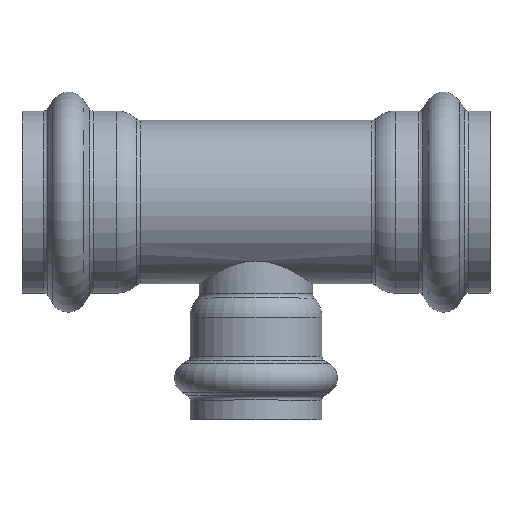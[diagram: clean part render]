
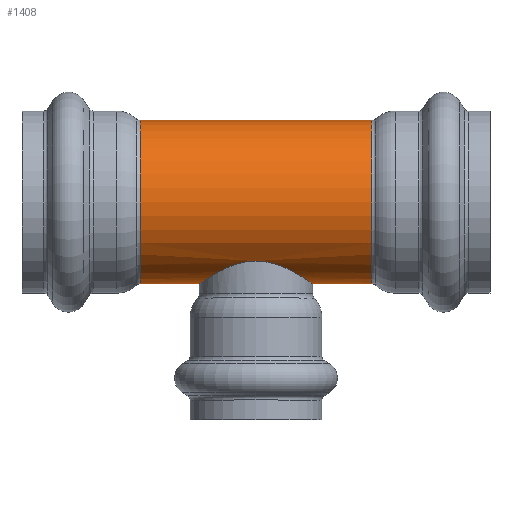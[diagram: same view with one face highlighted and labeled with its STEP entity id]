
A CAD part, top view. The second image highlights one B-rep face of the part: STEP entity #1408.
In plain terms, the highlighted cylindrical face has radius 24.13 mm (diameter 48.26 mm), a full revolution.
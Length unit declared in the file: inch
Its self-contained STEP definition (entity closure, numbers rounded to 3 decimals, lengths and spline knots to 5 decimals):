
#134=FACE_OUTER_BOUND('',#197,.T.);
#197=EDGE_LOOP('',(#1132,#1133,#1134,#1135,#1136,#1137,#1138,#1139,#1140,
#1141,#1142,#1143,#1144,#1145));
#334=CIRCLE('',#1605,0.95);
#335=CIRCLE('',#1606,0.95);
#336=CIRCLE('',#1607,0.95);
#337=CIRCLE('',#1609,0.95);
#338=CIRCLE('',#1610,0.95);
#339=CIRCLE('',#1611,0.95);
#420=LINE('',#2662,#450);
#421=LINE('',#2663,#451);
#450=VECTOR('',#2052,0.95);
#451=VECTOR('',#2053,0.95);
#460=B_SPLINE_CURVE_WITH_KNOTS('',3,(#2252,#2253,#2254,#2255,#2256,#2257,
#2258,#2259,#2260,#2261,#2262,#2263,#2264,#2265,#2266,#2267),
 .UNSPECIFIED.,.F.,.F.,(4,2,2,2,2,2,2,4),(0.,0.33127,0.66254,
1.32507,1.6519,1.97872,2.30554,2.63236),
 .UNSPECIFIED.);
#461=B_SPLINE_CURVE_WITH_KNOTS('',3,(#2269,#2270,#2271,#2272,#2273,#2274,
#2275,#2276,#2277,#2278,#2279,#2280,#2281,#2282,#2283,#2284),
 .UNSPECIFIED.,.F.,.F.,(4,2,2,2,2,2,2,4),(7.89709,8.22391,
8.55074,8.87756,9.20438,9.86692,10.19819,
10.52946),.UNSPECIFIED.);
#462=B_SPLINE_CURVE_WITH_KNOTS('',3,(#2286,#2287,#2288,#2289,#2290,#2291,
#2292,#2293,#2294,#2295,#2296,#2297,#2298,#2299,#2300,#2301),
 .UNSPECIFIED.,.F.,.F.,(4,2,2,2,2,2,2,4),(5.26473,5.596,
5.92727,6.5898,6.91662,7.24345,7.57027,
7.89709),.UNSPECIFIED.);
#463=B_SPLINE_CURVE_WITH_KNOTS('',3,(#2307,#2308,#2309,#2310,#2311,#2312,
#2313,#2314,#2315,#2316,#2317,#2318,#2319,#2320,#2321,#2322),
 .UNSPECIFIED.,.F.,.F.,(4,2,2,2,2,2,2,4),(2.63236,2.95919,
3.28601,3.61283,3.93965,4.60219,4.93346,
5.26473),.UNSPECIFIED.);
#468=VERTEX_POINT('',#2250);
#469=VERTEX_POINT('',#2251);
#470=VERTEX_POINT('',#2268);
#471=VERTEX_POINT('',#2285);
#572=VERTEX_POINT('',#2649);
#573=VERTEX_POINT('',#2651);
#574=VERTEX_POINT('',#2653);
#575=VERTEX_POINT('',#2657);
#576=VERTEX_POINT('',#2658);
#577=VERTEX_POINT('',#2660);
#628=EDGE_CURVE('',#468,#469,#460,.T.);
#629=EDGE_CURVE('',#470,#468,#461,.T.);
#630=EDGE_CURVE('',#471,#470,#462,.T.);
#634=EDGE_CURVE('',#469,#471,#463,.T.);
#772=EDGE_CURVE('',#573,#572,#334,.T.);
#773=EDGE_CURVE('',#574,#573,#335,.T.);
#774=EDGE_CURVE('',#572,#574,#336,.T.);
#775=EDGE_CURVE('',#575,#576,#337,.T.);
#776=EDGE_CURVE('',#577,#575,#338,.T.);
#777=EDGE_CURVE('',#577,#469,#420,.T.);
#778=EDGE_CURVE('',#470,#574,#421,.T.);
#779=EDGE_CURVE('',#576,#577,#339,.T.);
#1132=ORIENTED_EDGE('',*,*,#775,.F.);
#1133=ORIENTED_EDGE('',*,*,#776,.F.);
#1134=ORIENTED_EDGE('',*,*,#777,.T.);
#1135=ORIENTED_EDGE('',*,*,#634,.T.);
#1136=ORIENTED_EDGE('',*,*,#630,.T.);
#1137=ORIENTED_EDGE('',*,*,#778,.T.);
#1138=ORIENTED_EDGE('',*,*,#773,.T.);
#1139=ORIENTED_EDGE('',*,*,#772,.T.);
#1140=ORIENTED_EDGE('',*,*,#774,.T.);
#1141=ORIENTED_EDGE('',*,*,#778,.F.);
#1142=ORIENTED_EDGE('',*,*,#629,.T.);
#1143=ORIENTED_EDGE('',*,*,#628,.T.);
#1144=ORIENTED_EDGE('',*,*,#777,.F.);
#1145=ORIENTED_EDGE('',*,*,#779,.F.);
#1299=CYLINDRICAL_SURFACE('',#1608,0.95);
#1408=ADVANCED_FACE('',(#134),#1299,.T.);
#1605=AXIS2_PLACEMENT_3D('',#2652,#2040,#2041);
#1606=AXIS2_PLACEMENT_3D('',#2654,#2042,#2043);
#1607=AXIS2_PLACEMENT_3D('',#2655,#2044,#2045);
#1608=AXIS2_PLACEMENT_3D('',#2656,#2046,#2047);
#1609=AXIS2_PLACEMENT_3D('',#2659,#2048,#2049);
#1610=AXIS2_PLACEMENT_3D('',#2661,#2050,#2051);
#1611=AXIS2_PLACEMENT_3D('',#2664,#2054,#2055);
#2040=DIRECTION('center_axis',(1.,0.,0.));
#2041=DIRECTION('ref_axis',(0.,1.,0.));
#2042=DIRECTION('center_axis',(1.,0.,0.));
#2043=DIRECTION('ref_axis',(0.,1.,0.));
#2044=DIRECTION('center_axis',(1.,0.,0.));
#2045=DIRECTION('ref_axis',(0.,1.,0.));
#2046=DIRECTION('center_axis',(1.,0.,0.));
#2047=DIRECTION('ref_axis',(0.,1.,0.));
#2048=DIRECTION('center_axis',(1.,0.,0.));
#2049=DIRECTION('ref_axis',(0.,1.,0.));
#2050=DIRECTION('center_axis',(1.,0.,0.));
#2051=DIRECTION('ref_axis',(0.,1.,0.));
#2052=DIRECTION('',(-1.,0.,0.));
#2053=DIRECTION('',(-1.,0.,0.));
#2054=DIRECTION('center_axis',(1.,0.,0.));
#2055=DIRECTION('ref_axis',(0.,1.,0.));
#2250=CARTESIAN_POINT('',(0.,-0.68571,0.6575));
#2251=CARTESIAN_POINT('',(0.6575,-0.95,0.));
#2252=CARTESIAN_POINT('Ctrl Pts',(0.,-0.68571,
0.6575));
#2253=CARTESIAN_POINT('Ctrl Pts',(0.04347,-0.68571,
0.6575));
#2254=CARTESIAN_POINT('Ctrl Pts',(0.0875,-0.68997,
0.65313));
#2255=CARTESIAN_POINT('Ctrl Pts',(0.17367,-0.70609,0.63567));
#2256=CARTESIAN_POINT('Ctrl Pts',(0.21583,-0.71789,
0.62259));
#2257=CARTESIAN_POINT('Ctrl Pts',(0.33598,-0.7599,0.57183));
#2258=CARTESIAN_POINT('Ctrl Pts',(0.40778,-0.79639,
0.52207));
#2259=CARTESIAN_POINT('Ctrl Pts',(0.49311,-0.84428,
0.43673));
#2260=CARTESIAN_POINT('Ctrl Pts',(0.51989,-0.8603,
0.40476));
#2261=CARTESIAN_POINT('Ctrl Pts',(0.56763,-0.88997,0.33453));
#2262=CARTESIAN_POINT('Ctrl Pts',(0.5886,-0.90359,
0.29627));
#2263=CARTESIAN_POINT('Ctrl Pts',(0.62268,-0.92615,
0.21562));
#2264=CARTESIAN_POINT('Ctrl Pts',(0.63582,-0.93511,
0.17314));
#2265=CARTESIAN_POINT('Ctrl Pts',(0.65324,-0.94703,0.08677));
#2266=CARTESIAN_POINT('Ctrl Pts',(0.6575,-0.95,0.04289));
#2267=CARTESIAN_POINT('Ctrl Pts',(0.6575,-0.95,0.));
#2268=CARTESIAN_POINT('',(-0.6575,-0.95,0.));
#2269=CARTESIAN_POINT('Ctrl Pts',(-0.6575,-0.95,0.));
#2270=CARTESIAN_POINT('Ctrl Pts',(-0.6575,-0.95,0.04289));
#2271=CARTESIAN_POINT('Ctrl Pts',(-0.65324,-0.94703,
0.08677));
#2272=CARTESIAN_POINT('Ctrl Pts',(-0.63582,-0.93511,
0.17314));
#2273=CARTESIAN_POINT('Ctrl Pts',(-0.62268,-0.92615,
0.21562));
#2274=CARTESIAN_POINT('Ctrl Pts',(-0.5886,-0.90359,
0.29627));
#2275=CARTESIAN_POINT('Ctrl Pts',(-0.56763,-0.88997,
0.33453));
#2276=CARTESIAN_POINT('Ctrl Pts',(-0.51989,-0.8603,
0.40476));
#2277=CARTESIAN_POINT('Ctrl Pts',(-0.49311,-0.84428,
0.43673));
#2278=CARTESIAN_POINT('Ctrl Pts',(-0.40778,-0.79639,
0.52207));
#2279=CARTESIAN_POINT('Ctrl Pts',(-0.33598,-0.7599,
0.57183));
#2280=CARTESIAN_POINT('Ctrl Pts',(-0.21583,-0.71789,
0.62259));
#2281=CARTESIAN_POINT('Ctrl Pts',(-0.17367,-0.70609,
0.63567));
#2282=CARTESIAN_POINT('Ctrl Pts',(-0.0875,-0.68997,
0.65313));
#2283=CARTESIAN_POINT('Ctrl Pts',(-0.04347,-0.68571,
0.6575));
#2284=CARTESIAN_POINT('Ctrl Pts',(0.,-0.68571,
0.6575));
#2285=CARTESIAN_POINT('',(0.,-0.68571,-0.6575));
#2286=CARTESIAN_POINT('Ctrl Pts',(0.,-0.68571,
-0.6575));
#2287=CARTESIAN_POINT('Ctrl Pts',(-0.04347,-0.68571,
-0.6575));
#2288=CARTESIAN_POINT('Ctrl Pts',(-0.0875,-0.68997,
-0.65313));
#2289=CARTESIAN_POINT('Ctrl Pts',(-0.17367,-0.70609,-0.63567));
#2290=CARTESIAN_POINT('Ctrl Pts',(-0.21583,-0.71789,
-0.62259));
#2291=CARTESIAN_POINT('Ctrl Pts',(-0.33598,-0.7599,
-0.57183));
#2292=CARTESIAN_POINT('Ctrl Pts',(-0.40778,-0.79639,
-0.52207));
#2293=CARTESIAN_POINT('Ctrl Pts',(-0.49311,-0.84428,
-0.43673));
#2294=CARTESIAN_POINT('Ctrl Pts',(-0.51989,-0.8603,
-0.40476));
#2295=CARTESIAN_POINT('Ctrl Pts',(-0.56763,-0.88997,
-0.33453));
#2296=CARTESIAN_POINT('Ctrl Pts',(-0.5886,-0.90359,
-0.29627));
#2297=CARTESIAN_POINT('Ctrl Pts',(-0.62268,-0.92615,
-0.21562));
#2298=CARTESIAN_POINT('Ctrl Pts',(-0.63582,-0.93511,
-0.17314));
#2299=CARTESIAN_POINT('Ctrl Pts',(-0.65324,-0.94703,
-0.08677));
#2300=CARTESIAN_POINT('Ctrl Pts',(-0.6575,-0.95,-0.04289));
#2301=CARTESIAN_POINT('Ctrl Pts',(-0.6575,-0.95,0.));
#2307=CARTESIAN_POINT('Ctrl Pts',(0.6575,-0.95,0.));
#2308=CARTESIAN_POINT('Ctrl Pts',(0.6575,-0.95,-0.04289));
#2309=CARTESIAN_POINT('Ctrl Pts',(0.65324,-0.94703,-0.08677));
#2310=CARTESIAN_POINT('Ctrl Pts',(0.63582,-0.93511,
-0.17314));
#2311=CARTESIAN_POINT('Ctrl Pts',(0.62268,-0.92615,
-0.21562));
#2312=CARTESIAN_POINT('Ctrl Pts',(0.5886,-0.90359,
-0.29627));
#2313=CARTESIAN_POINT('Ctrl Pts',(0.56763,-0.88997,-0.33453));
#2314=CARTESIAN_POINT('Ctrl Pts',(0.51989,-0.8603,
-0.40476));
#2315=CARTESIAN_POINT('Ctrl Pts',(0.49311,-0.84428,
-0.43673));
#2316=CARTESIAN_POINT('Ctrl Pts',(0.40778,-0.79639,
-0.52207));
#2317=CARTESIAN_POINT('Ctrl Pts',(0.33598,-0.7599,-0.57183));
#2318=CARTESIAN_POINT('Ctrl Pts',(0.21583,-0.71789,
-0.62259));
#2319=CARTESIAN_POINT('Ctrl Pts',(0.17367,-0.70609,-0.63567));
#2320=CARTESIAN_POINT('Ctrl Pts',(0.0875,-0.68997,
-0.65313));
#2321=CARTESIAN_POINT('Ctrl Pts',(0.04347,-0.68571,
-0.6575));
#2322=CARTESIAN_POINT('Ctrl Pts',(0.,-0.68571,
-0.6575));
#2649=CARTESIAN_POINT('',(-1.34535,0.,0.95));
#2651=CARTESIAN_POINT('',(-1.34535,0.95,0.));
#2652=CARTESIAN_POINT('Origin',(-1.34535,0.,0.));
#2653=CARTESIAN_POINT('',(-1.34535,-0.95,0.));
#2654=CARTESIAN_POINT('Origin',(-1.34535,0.,0.));
#2655=CARTESIAN_POINT('Origin',(-1.34535,0.,0.));
#2656=CARTESIAN_POINT('Origin',(0.67268,0.,0.));
#2657=CARTESIAN_POINT('',(1.34535,0.95,0.));
#2658=CARTESIAN_POINT('',(1.34535,0.,0.95));
#2659=CARTESIAN_POINT('Origin',(1.34535,0.,0.));
#2660=CARTESIAN_POINT('',(1.34535,-0.95,0.));
#2661=CARTESIAN_POINT('Origin',(1.34535,0.,0.));
#2662=CARTESIAN_POINT('',(0.67268,-0.95,0.));
#2663=CARTESIAN_POINT('',(0.67268,-0.95,0.));
#2664=CARTESIAN_POINT('Origin',(1.34535,0.,0.));
